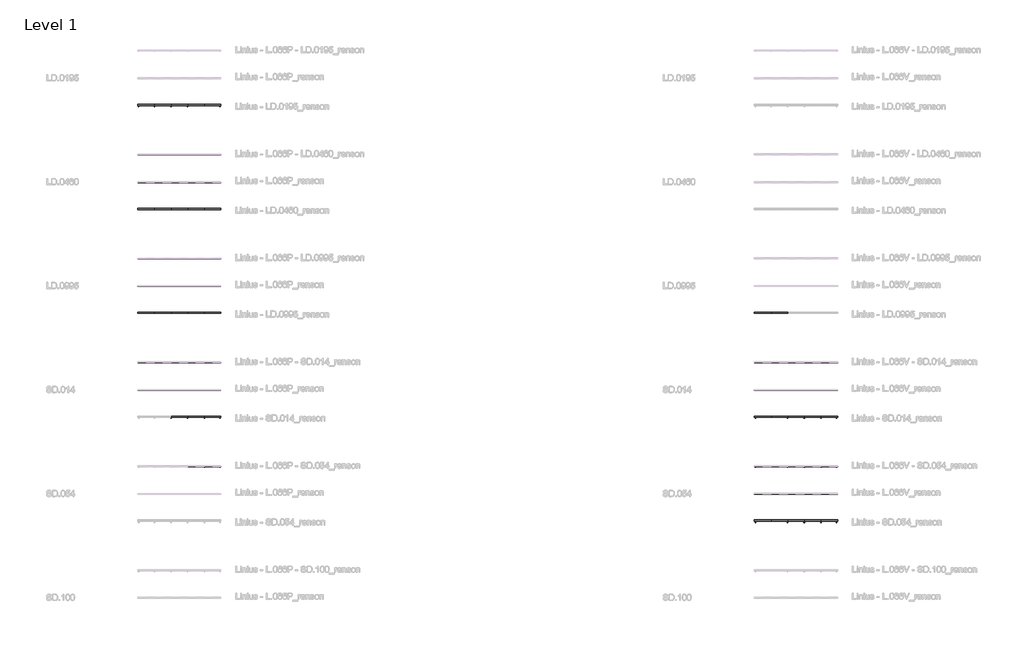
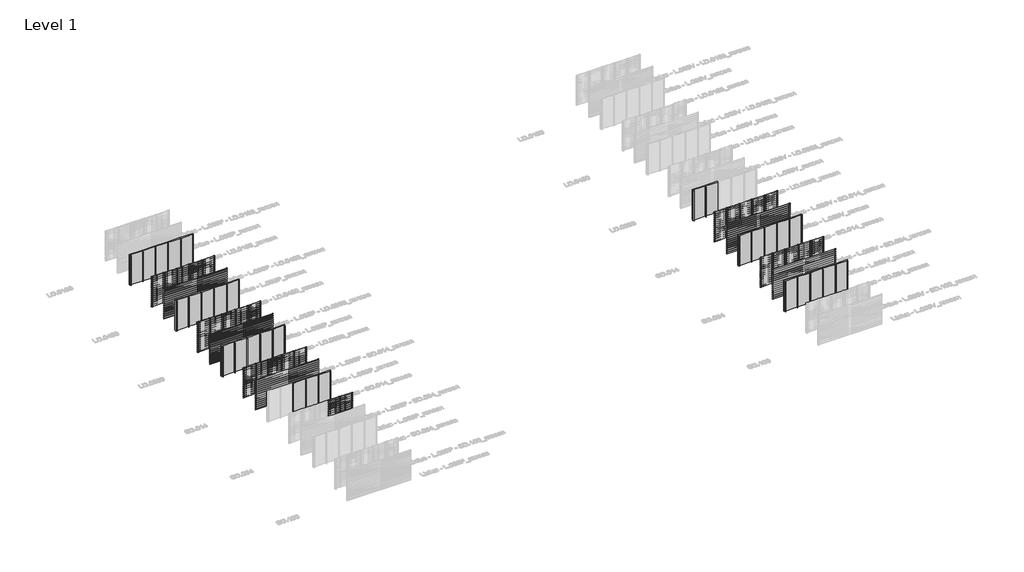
# One storey, part 8 of 540: 67 members, 62 plates.
"""IFC4 building model written with IfcOpenShell, lengths in millimetres."""

from ifc_helpers import new_model, si_unit, origin, origin_with_axes, place, context, project, spatial, polyline, outline, extrude, transform, mapped, element, save
from components import rectangular_mullion_e1f482b2, rectangular_mullion_21e3ddae, rectangular_mullion_fb497acc, rectangular_mullion_3facce28, rectangular_mullion_6cf2c509, rectangular_mullion_146f339b, rectangular_mullion_aa1047c5, rectangular_mullion_c2c7736a, rectangular_mullion_35b0a916, rectangular_mullion_bd250e2e, rectangular_mullion_7b49c8f1, rectangular_mullion_2b84ad7e, rectangular_mullion_0fd695e7, rectangular_mullion_9b796d85, rectangular_mullion_dfb17e98, empty_system_panel_empty_aabbdda4

model = new_model("IFC4")

# Units and contexts
model_context = context("Model", 3, world=origin())
ifc_project = project(units=[si_unit("LENGTHUNIT", "METRE", prefix="MILLI")], contexts=[model_context])

# Site, building, storey
site = spatial("IfcSite", under=ifc_project)
building = spatial("IfcBuilding", under=site)
storey = spatial("IfcBuildingStorey", under=building, Name="Level 1", Elevation=0.0)

# Members
placement = place(None, origin())
rectangular_mullion_shape = rectangular_mullion_e1f482b2(model_context)
element("IfcMember", 1, ObjectType="Rectangular Mullion : LD.0195_renson", at=placement, inside=storey, context=model_context, shape_type="MappedRepresentation", body=[
    mapped(rectangular_mullion_shape, transform((138766.6208095, 62483.0540136, 0.0), x_axis=(-1.0, 0.0, 0.0), y_axis=(0.0, 1.0, 0.0), z_axis=(0.0, 0.0, -1.0))),
])
element("IfcMember", 2, ObjectType="Rectangular Mullion : LD.0195_renson", at=placement, inside=storey, context=model_context, shape_type="MappedRepresentation", body=[
    mapped(rectangular_mullion_shape, transform((137566.6208096, 62483.0540136, 0.0), x_axis=(-1.0, 0.0, 0.0), y_axis=(0.0, 1.0, 0.0), z_axis=(0.0, 0.0, -1.0))),
])
element("IfcMember", 3, ObjectType="Rectangular Mullion : LD.0195_renson", at=placement, inside=storey, context=model_context, shape_type="MappedRepresentation", body=[
    mapped(rectangular_mullion_shape, transform((136366.6208097, 62483.0540136, 0.0), x_axis=(-1.0, 0.0, 0.0), y_axis=(0.0, 1.0, 0.0), z_axis=(0.0, 0.0, -1.0))),
])
element("IfcMember", 4, ObjectType="Rectangular Mullion : LD.0195_renson", at=placement, inside=storey, context=model_context, shape_type="MappedRepresentation", body=[
    mapped(rectangular_mullion_shape, transform((135166.6208099, 62483.0540136, 0.0), x_axis=(-1.0, 0.0, 0.0), y_axis=(0.0, 1.0, 0.0), z_axis=(0.0, 0.0, -1.0))),
])
rectangular_mullion_2_shape = rectangular_mullion_21e3ddae(model_context)
element("IfcMember", 5, ObjectType="Rectangular Mullion : LD.0460_renson", at=placement, inside=storey, context=model_context, shape_type="MappedRepresentation", body=[
    mapped(rectangular_mullion_2_shape, transform((138766.6208095, 58983.0540136, 0.0), x_axis=(-1.0, 0.0, 0.0), y_axis=(0.0, 1.0, 0.0), z_axis=(0.0, 0.0, -1.0))),
])
element("IfcMember", 6, ObjectType="Rectangular Mullion : LD.0460_renson", at=placement, inside=storey, context=model_context, shape_type="MappedRepresentation", body=[
    mapped(rectangular_mullion_2_shape, transform((137566.6208096, 58983.0540136, 0.0), x_axis=(-1.0, 0.0, 0.0), y_axis=(0.0, 1.0, 0.0), z_axis=(0.0, 0.0, -1.0))),
])
element("IfcMember", 7, ObjectType="Rectangular Mullion : LD.0460_renson", at=placement, inside=storey, context=model_context, shape_type="MappedRepresentation", body=[
    mapped(rectangular_mullion_2_shape, transform((136366.6208097, 58983.0540136, 0.0), x_axis=(-1.0, 0.0, 0.0), y_axis=(0.0, 1.0, 0.0), z_axis=(0.0, 0.0, -1.0))),
])
element("IfcMember", 8, ObjectType="Rectangular Mullion : LD.0460_renson", at=placement, inside=storey, context=model_context, shape_type="MappedRepresentation", body=[
    mapped(rectangular_mullion_2_shape, transform((135166.6208099, 58983.0540136, 0.0), x_axis=(-1.0, 0.0, 0.0), y_axis=(0.0, 1.0, 0.0), z_axis=(0.0, 0.0, -1.0))),
])
element("IfcMember", 9, ObjectType="Rectangular Mullion : LD.0460_renson", at=placement, inside=storey, context=model_context, shape_type="MappedRepresentation", body=[
    mapped(rectangular_mullion_2_shape, transform((138766.6208095, 54983.0540136, 0.0), x_axis=(-1.0, 0.0, 0.0), y_axis=(0.0, 1.0, 0.0), z_axis=(0.0, 0.0, -1.0))),
])
element("IfcMember", 10, ObjectType="Rectangular Mullion : LD.0460_renson", at=placement, inside=storey, context=model_context, shape_type="MappedRepresentation", body=[
    mapped(rectangular_mullion_2_shape, transform((137566.6208096, 54983.0540136, 0.0), x_axis=(-1.0, 0.0, 0.0), y_axis=(0.0, 1.0, 0.0), z_axis=(0.0, 0.0, -1.0))),
])
element("IfcMember", 11, ObjectType="Rectangular Mullion : LD.0460_renson", at=placement, inside=storey, context=model_context, shape_type="MappedRepresentation", body=[
    mapped(rectangular_mullion_2_shape, transform((136366.6208097, 54983.0540136, 0.0), x_axis=(-1.0, 0.0, 0.0), y_axis=(0.0, 1.0, 0.0), z_axis=(0.0, 0.0, -1.0))),
])
element("IfcMember", 12, ObjectType="Rectangular Mullion : LD.0460_renson", at=placement, inside=storey, context=model_context, shape_type="MappedRepresentation", body=[
    mapped(rectangular_mullion_2_shape, transform((135166.6208099, 54983.0540136, 0.0), x_axis=(-1.0, 0.0, 0.0), y_axis=(0.0, 1.0, 0.0), z_axis=(0.0, 0.0, -1.0))),
])
rectangular_mullion_3_shape = rectangular_mullion_fb497acc(model_context)
element("IfcMember", 13, ObjectType="Rectangular Mullion : LD.0995_renson", at=placement, inside=storey, context=model_context, shape_type="MappedRepresentation", body=[
    mapped(rectangular_mullion_3_shape, transform((138766.6208095, 51483.0540136, 0.0), x_axis=(-1.0, 0.0, 0.0), y_axis=(0.0, 1.0, 0.0), z_axis=(0.0, 0.0, -1.0))),
])
element("IfcMember", 14, ObjectType="Rectangular Mullion : LD.0995_renson", at=placement, inside=storey, context=model_context, shape_type="MappedRepresentation", body=[
    mapped(rectangular_mullion_3_shape, transform((137566.6208096, 51483.0540136, 0.0), x_axis=(-1.0, 0.0, 0.0), y_axis=(0.0, 1.0, 0.0), z_axis=(0.0, 0.0, -1.0))),
])
element("IfcMember", 15, ObjectType="Rectangular Mullion : LD.0995_renson", at=placement, inside=storey, context=model_context, shape_type="MappedRepresentation", body=[
    mapped(rectangular_mullion_3_shape, transform((136366.6208097, 51483.0540136, 0.0), x_axis=(-1.0, 0.0, 0.0), y_axis=(0.0, 1.0, 0.0), z_axis=(0.0, 0.0, -1.0))),
])
element("IfcMember", 16, ObjectType="Rectangular Mullion : LD.0995_renson", at=placement, inside=storey, context=model_context, shape_type="MappedRepresentation", body=[
    mapped(rectangular_mullion_3_shape, transform((135166.6208099, 51483.0540136, 0.0), x_axis=(-1.0, 0.0, 0.0), y_axis=(0.0, 1.0, 0.0), z_axis=(0.0, 0.0, -1.0))),
])
element("IfcMember", 17, ObjectType="Rectangular Mullion : LD.0995_renson", at=placement, inside=storey, context=model_context, shape_type="MappedRepresentation", body=[
    mapped(rectangular_mullion_3_shape, transform((138766.6208095, 47483.0540136, 0.0), x_axis=(-1.0, 0.0, 0.0), y_axis=(0.0, 1.0, 0.0), z_axis=(0.0, 0.0, -1.0))),
])
element("IfcMember", 18, ObjectType="Rectangular Mullion : LD.0995_renson", at=placement, inside=storey, context=model_context, shape_type="MappedRepresentation", body=[
    mapped(rectangular_mullion_3_shape, transform((137566.6208096, 47483.0540136, 0.0), x_axis=(-1.0, 0.0, 0.0), y_axis=(0.0, 1.0, 0.0), z_axis=(0.0, 0.0, -1.0))),
])
element("IfcMember", 19, ObjectType="Rectangular Mullion : LD.0995_renson", at=placement, inside=storey, context=model_context, shape_type="MappedRepresentation", body=[
    mapped(rectangular_mullion_3_shape, transform((136366.6208097, 47483.0540136, 0.0), x_axis=(-1.0, 0.0, 0.0), y_axis=(0.0, 1.0, 0.0), z_axis=(0.0, 0.0, -1.0))),
])
element("IfcMember", 20, ObjectType="Rectangular Mullion : LD.0995_renson", at=placement, inside=storey, context=model_context, shape_type="MappedRepresentation", body=[
    mapped(rectangular_mullion_3_shape, transform((135166.6208099, 47483.0540136, 0.0), x_axis=(-1.0, 0.0, 0.0), y_axis=(0.0, 1.0, 0.0), z_axis=(0.0, 0.0, -1.0))),
])
element("IfcMember", 21, ObjectType="Rectangular Mullion : LD.0995_renson", at=placement, inside=storey, context=model_context, shape_type="MappedRepresentation", body=[
    mapped(rectangular_mullion_3_shape, transform((179666.6208099, 47483.0540136, 0.0), x_axis=(-1.0, 0.0, 0.0), y_axis=(0.0, 1.0, 0.0), z_axis=(0.0, 0.0, -1.0))),
])
rectangular_mullion_4_shape = rectangular_mullion_3facce28(model_context)
element("IfcMember", 22, ObjectType="Rectangular Mullion : SD.014_renson", at=placement, inside=storey, context=model_context, shape_type="MappedRepresentation", body=[
    mapped(rectangular_mullion_4_shape, transform((138766.6208095, 43983.0540136, 0.0), x_axis=(-1.0, 0.0, 0.0), y_axis=(0.0, 1.0, 0.0), z_axis=(0.0, 0.0, -1.0))),
])
element("IfcMember", 23, ObjectType="Rectangular Mullion : SD.014_renson", at=placement, inside=storey, context=model_context, shape_type="MappedRepresentation", body=[
    mapped(rectangular_mullion_4_shape, transform((137566.6208096, 43983.0540136, 0.0), x_axis=(-1.0, 0.0, 0.0), y_axis=(0.0, 1.0, 0.0), z_axis=(0.0, 0.0, -1.0))),
])
element("IfcMember", 24, ObjectType="Rectangular Mullion : SD.014_renson", at=placement, inside=storey, context=model_context, shape_type="MappedRepresentation", body=[
    mapped(rectangular_mullion_4_shape, transform((136366.6208097, 43983.0540136, 0.0), x_axis=(-1.0, 0.0, 0.0), y_axis=(0.0, 1.0, 0.0), z_axis=(0.0, 0.0, -1.0))),
])
element("IfcMember", 25, ObjectType="Rectangular Mullion : SD.014_renson", at=placement, inside=storey, context=model_context, shape_type="MappedRepresentation", body=[
    mapped(rectangular_mullion_4_shape, transform((135166.6208099, 43983.0540136, 0.0), x_axis=(-1.0, 0.0, 0.0), y_axis=(0.0, 1.0, 0.0), z_axis=(0.0, 0.0, -1.0))),
])
element("IfcMember", 26, ObjectType="Rectangular Mullion : SD.014_renson", at=placement, inside=storey, context=model_context, shape_type="MappedRepresentation", body=[
    mapped(rectangular_mullion_4_shape, transform((138766.6208095, 39983.0540136, 0.0), x_axis=(-1.0, 0.0, 0.0), y_axis=(0.0, 1.0, 0.0), z_axis=(0.0, 0.0, -1.0))),
])
element("IfcMember", 27, ObjectType="Rectangular Mullion : SD.014_renson", at=placement, inside=storey, context=model_context, shape_type="MappedRepresentation", body=[
    mapped(rectangular_mullion_4_shape, transform((137566.6208096, 39983.0540136, 0.0), x_axis=(-1.0, 0.0, 0.0), y_axis=(0.0, 1.0, 0.0), z_axis=(0.0, 0.0, -1.0))),
])
element("IfcMember", 28, ObjectType="Rectangular Mullion : SD.014_renson", at=placement, inside=storey, context=model_context, shape_type="MappedRepresentation", body=[
    mapped(rectangular_mullion_4_shape, transform((136366.6208097, 39983.0540136, 0.0), x_axis=(-1.0, 0.0, 0.0), y_axis=(0.0, 1.0, 0.0), z_axis=(0.0, 0.0, -1.0))),
])
element("IfcMember", 29, ObjectType="Rectangular Mullion : SD.014_renson", at=placement, inside=storey, context=model_context, shape_type="MappedRepresentation", body=[
    mapped(rectangular_mullion_4_shape, transform((182066.6208096, 43983.0540136, 0.0), x_axis=(-1.0, 0.0, 0.0), y_axis=(0.0, 1.0, 0.0), z_axis=(0.0, 0.0, -1.0))),
])
element("IfcMember", 30, ObjectType="Rectangular Mullion : SD.014_renson", at=placement, inside=storey, context=model_context, shape_type="MappedRepresentation", body=[
    mapped(rectangular_mullion_4_shape, transform((180866.6208097, 43983.0540136, 0.0), x_axis=(-1.0, 0.0, 0.0), y_axis=(0.0, 1.0, 0.0), z_axis=(0.0, 0.0, -1.0))),
])
element("IfcMember", 31, ObjectType="Rectangular Mullion : SD.014_renson", at=placement, inside=storey, context=model_context, shape_type="MappedRepresentation", body=[
    mapped(rectangular_mullion_4_shape, transform((179666.6208099, 43983.0540136, 0.0), x_axis=(-1.0, 0.0, 0.0), y_axis=(0.0, 1.0, 0.0), z_axis=(0.0, 0.0, -1.0))),
])
element("IfcMember", 32, ObjectType="Rectangular Mullion : SD.014_renson", at=placement, inside=storey, context=model_context, shape_type="MappedRepresentation", body=[
    mapped(rectangular_mullion_4_shape, transform((183266.6208095, 39983.0540136, 0.0), x_axis=(-1.0, 0.0, 0.0), y_axis=(0.0, 1.0, 0.0), z_axis=(0.0, 0.0, -1.0))),
])
element("IfcMember", 33, ObjectType="Rectangular Mullion : SD.014_renson", at=placement, inside=storey, context=model_context, shape_type="MappedRepresentation", body=[
    mapped(rectangular_mullion_4_shape, transform((182066.6208096, 39983.0540136, 0.0), x_axis=(-1.0, 0.0, 0.0), y_axis=(0.0, 1.0, 0.0), z_axis=(0.0, 0.0, -1.0))),
])
element("IfcMember", 34, ObjectType="Rectangular Mullion : SD.014_renson", at=placement, inside=storey, context=model_context, shape_type="MappedRepresentation", body=[
    mapped(rectangular_mullion_4_shape, transform((180866.6208097, 39983.0540136, 0.0), x_axis=(-1.0, 0.0, 0.0), y_axis=(0.0, 1.0, 0.0), z_axis=(0.0, 0.0, -1.0))),
])
element("IfcMember", 35, ObjectType="Rectangular Mullion : SD.014_renson", at=placement, inside=storey, context=model_context, shape_type="MappedRepresentation", body=[
    mapped(rectangular_mullion_4_shape, transform((179666.6208099, 39983.0540136, 0.0), x_axis=(-1.0, 0.0, 0.0), y_axis=(0.0, 1.0, 0.0), z_axis=(0.0, 0.0, -1.0))),
])
element("IfcMember", 36, ObjectType="Rectangular Mullion : SD.014_renson", at=placement, inside=storey, context=model_context, shape_type="MappedRepresentation", body=[
    mapped(rectangular_mullion_4_shape, transform((183266.6208095, 43983.0540136, 0.0), x_axis=(-1.0, 0.0, 0.0), y_axis=(0.0, 1.0, 0.0), z_axis=(0.0, 0.0, -1.0))),
])
rectangular_mullion_5_shape = rectangular_mullion_6cf2c509(model_context)
element("IfcMember", 37, ObjectType="Rectangular Mullion : SD.054_renson", at=placement, inside=storey, context=model_context, shape_type="MappedRepresentation", body=[
    mapped(rectangular_mullion_5_shape, transform((138766.6208095, 36483.0540136, 0.0), x_axis=(-1.0, 0.0, 0.0), y_axis=(0.0, 1.0, 0.0), z_axis=(0.0, 0.0, -1.0))),
])
element("IfcMember", 38, ObjectType="Rectangular Mullion : SD.054_renson", at=placement, inside=storey, context=model_context, shape_type="MappedRepresentation", body=[
    mapped(rectangular_mullion_5_shape, transform((182066.6208096, 36483.0540136, 0.0), x_axis=(-1.0, 0.0, 0.0), y_axis=(0.0, 1.0, 0.0), z_axis=(0.0, 0.0, -1.0))),
])
element("IfcMember", 39, ObjectType="Rectangular Mullion : SD.054_renson", at=placement, inside=storey, context=model_context, shape_type="MappedRepresentation", body=[
    mapped(rectangular_mullion_5_shape, transform((180866.6208097, 36483.0540136, 0.0), x_axis=(-1.0, 0.0, 0.0), y_axis=(0.0, 1.0, 0.0), z_axis=(0.0, 0.0, -1.0))),
])
element("IfcMember", 40, ObjectType="Rectangular Mullion : SD.054_renson", at=placement, inside=storey, context=model_context, shape_type="MappedRepresentation", body=[
    mapped(rectangular_mullion_5_shape, transform((179666.6208099, 36483.0540136, 0.0), x_axis=(-1.0, 0.0, 0.0), y_axis=(0.0, 1.0, 0.0), z_axis=(0.0, 0.0, -1.0))),
])
element("IfcMember", 41, ObjectType="Rectangular Mullion : SD.054_renson", at=placement, inside=storey, context=model_context, shape_type="MappedRepresentation", body=[
    mapped(rectangular_mullion_5_shape, transform((183266.6208095, 32483.0540136, 0.0), x_axis=(-1.0, 0.0, 0.0), y_axis=(0.0, 1.0, 0.0), z_axis=(0.0, 0.0, -1.0))),
])
element("IfcMember", 42, ObjectType="Rectangular Mullion : SD.054_renson", at=placement, inside=storey, context=model_context, shape_type="MappedRepresentation", body=[
    mapped(rectangular_mullion_5_shape, transform((182066.6208096, 32483.0540136, 0.0), x_axis=(-1.0, 0.0, 0.0), y_axis=(0.0, 1.0, 0.0), z_axis=(0.0, 0.0, -1.0))),
])
element("IfcMember", 43, ObjectType="Rectangular Mullion : SD.054_renson", at=placement, inside=storey, context=model_context, shape_type="MappedRepresentation", body=[
    mapped(rectangular_mullion_5_shape, transform((180866.6208097, 32483.0540136, 0.0), x_axis=(-1.0, 0.0, 0.0), y_axis=(0.0, 1.0, 0.0), z_axis=(0.0, 0.0, -1.0))),
])
element("IfcMember", 44, ObjectType="Rectangular Mullion : SD.054_renson", at=placement, inside=storey, context=model_context, shape_type="MappedRepresentation", body=[
    mapped(rectangular_mullion_5_shape, transform((179666.6208099, 32483.0540136, 0.0), x_axis=(-1.0, 0.0, 0.0), y_axis=(0.0, 1.0, 0.0), z_axis=(0.0, 0.0, -1.0))),
])
element("IfcMember", 45, ObjectType="Rectangular Mullion : SD.054_renson", at=placement, inside=storey, context=model_context, shape_type="MappedRepresentation", body=[
    mapped(rectangular_mullion_5_shape, transform((183266.6208095, 36483.0540136, 0.0), x_axis=(-1.0, 0.0, 0.0), y_axis=(0.0, 1.0, 0.0), z_axis=(0.0, 0.0, -1.0))),
])
rectangular_mullion_6_shape = rectangular_mullion_146f339b(model_context)
element("IfcMember", 46, ObjectType="Rectangular Mullion : LD.0195 - left_renson", at=placement, inside=storey, context=model_context, shape_type="MappedRepresentation", body=[
    mapped(rectangular_mullion_6_shape, transform((133966.6208097, 62483.0540136, 0.0), x_axis=(-1.0, 0.0, 0.0), y_axis=(0.0, 1.0, 0.0), z_axis=(0.0, 0.0, -1.0))),
])
rectangular_mullion_7_shape = rectangular_mullion_aa1047c5(model_context)
element("IfcMember", 47, ObjectType="Rectangular Mullion : LD.0195 - right_renson", at=placement, inside=storey, context=model_context, shape_type="MappedRepresentation", body=[
    mapped(rectangular_mullion_7_shape, transform((139966.6208097, 62483.0540136, 3000.0), x_axis=(1.0, 0.0, 0.0), y_axis=(0.0, 1.0, 0.0), z_axis=(0.0, 0.0, 1.0))),
])
rectangular_mullion_8_shape = rectangular_mullion_c2c7736a(model_context)
element("IfcMember", 48, ObjectType="Rectangular Mullion : LD.0460 - left_renson", at=placement, inside=storey, context=model_context, shape_type="MappedRepresentation", body=[
    mapped(rectangular_mullion_8_shape, transform((133966.6208097, 58983.0540136, 0.0), x_axis=(-1.0, 0.0, 0.0), y_axis=(0.0, 1.0, 0.0), z_axis=(0.0, 0.0, -1.0))),
])
element("IfcMember", 49, ObjectType="Rectangular Mullion : LD.0460 - left_renson", at=placement, inside=storey, context=model_context, shape_type="MappedRepresentation", body=[
    mapped(rectangular_mullion_8_shape, transform((133966.6208097, 54983.0540136, 0.0), x_axis=(-1.0, 0.0, 0.0), y_axis=(0.0, 1.0, 0.0), z_axis=(0.0, 0.0, -1.0))),
])
rectangular_mullion_9_shape = rectangular_mullion_35b0a916(model_context)
element("IfcMember", 50, ObjectType="Rectangular Mullion : LD.0460 - right_renson", at=placement, inside=storey, context=model_context, shape_type="MappedRepresentation", body=[
    mapped(rectangular_mullion_9_shape, transform((139966.6208097, 58983.0540136, 3000.0), x_axis=(1.0, 0.0, 0.0), y_axis=(0.0, 1.0, 0.0), z_axis=(0.0, 0.0, 1.0))),
])
element("IfcMember", 51, ObjectType="Rectangular Mullion : LD.0460 - right_renson", at=placement, inside=storey, context=model_context, shape_type="MappedRepresentation", body=[
    mapped(rectangular_mullion_9_shape, transform((139966.6208097, 54983.0540136, 3000.0), x_axis=(1.0, 0.0, 0.0), y_axis=(0.0, 1.0, 0.0), z_axis=(0.0, 0.0, 1.0))),
])
rectangular_mullion_10_shape = rectangular_mullion_bd250e2e(model_context)
element("IfcMember", 52, ObjectType="Rectangular Mullion : LD.0995 - left_renson", at=placement, inside=storey, context=model_context, shape_type="MappedRepresentation", body=[
    mapped(rectangular_mullion_10_shape, transform((133966.6208097, 51483.0540136, 0.0), x_axis=(-1.0, 0.0, 0.0), y_axis=(0.0, 1.0, 0.0), z_axis=(0.0, 0.0, -1.0))),
])
element("IfcMember", 53, ObjectType="Rectangular Mullion : LD.0995 - left_renson", at=placement, inside=storey, context=model_context, shape_type="MappedRepresentation", body=[
    mapped(rectangular_mullion_10_shape, transform((133966.6208097, 47483.0540136, 0.0), x_axis=(-1.0, 0.0, 0.0), y_axis=(0.0, 1.0, 0.0), z_axis=(0.0, 0.0, -1.0))),
])
element("IfcMember", 54, ObjectType="Rectangular Mullion : LD.0995 - left_renson", at=placement, inside=storey, context=model_context, shape_type="MappedRepresentation", body=[
    mapped(rectangular_mullion_10_shape, transform((178466.6208097, 47483.0540136, 0.0), x_axis=(-1.0, 0.0, 0.0), y_axis=(0.0, 1.0, 0.0), z_axis=(0.0, 0.0, -1.0))),
])
rectangular_mullion_11_shape = rectangular_mullion_7b49c8f1(model_context)
element("IfcMember", 55, ObjectType="Rectangular Mullion : LD.0995 - right_renson", at=placement, inside=storey, context=model_context, shape_type="MappedRepresentation", body=[
    mapped(rectangular_mullion_11_shape, transform((139966.6208097, 51483.0540136, 3000.0), x_axis=(1.0, 0.0, 0.0), y_axis=(0.0, 1.0, 0.0), z_axis=(0.0, 0.0, 1.0))),
])
element("IfcMember", 56, ObjectType="Rectangular Mullion : LD.0995 - right_renson", at=placement, inside=storey, context=model_context, shape_type="MappedRepresentation", body=[
    mapped(rectangular_mullion_11_shape, transform((139966.6208097, 47483.0540136, 3000.0), x_axis=(1.0, 0.0, 0.0), y_axis=(0.0, 1.0, 0.0), z_axis=(0.0, 0.0, 1.0))),
])
rectangular_mullion_12_shape = rectangular_mullion_2b84ad7e(model_context)
element("IfcMember", 57, ObjectType="Rectangular Mullion : SD.014 - left_renson", at=placement, inside=storey, context=model_context, shape_type="MappedRepresentation", body=[
    mapped(rectangular_mullion_12_shape, transform((133966.6208097, 43983.0540136, 0.0), x_axis=(-1.0, 0.0, 0.0), y_axis=(0.0, 1.0, 0.0), z_axis=(0.0, 0.0, -1.0))),
])
element("IfcMember", 58, ObjectType="Rectangular Mullion : SD.014 - left_renson", at=placement, inside=storey, context=model_context, shape_type="MappedRepresentation", body=[
    mapped(rectangular_mullion_12_shape, transform((178466.6208097, 43983.0540136, 0.0), x_axis=(-1.0, 0.0, 0.0), y_axis=(0.0, 1.0, 0.0), z_axis=(0.0, 0.0, -1.0))),
])
element("IfcMember", 59, ObjectType="Rectangular Mullion : SD.014 - left_renson", at=placement, inside=storey, context=model_context, shape_type="MappedRepresentation", body=[
    mapped(rectangular_mullion_12_shape, transform((178466.6208097, 39983.0540136, 0.0), x_axis=(-1.0, 0.0, 0.0), y_axis=(0.0, 1.0, 0.0), z_axis=(0.0, 0.0, -1.0))),
])
rectangular_mullion_13_shape = rectangular_mullion_0fd695e7(model_context)
element("IfcMember", 60, ObjectType="Rectangular Mullion : SD.014 - right_renson", at=placement, inside=storey, context=model_context, shape_type="MappedRepresentation", body=[
    mapped(rectangular_mullion_13_shape, transform((139966.6208097, 43983.0540136, 3000.0), x_axis=(1.0, 0.0, 0.0), y_axis=(0.0, 1.0, 0.0), z_axis=(0.0, 0.0, 1.0))),
])
element("IfcMember", 61, ObjectType="Rectangular Mullion : SD.014 - right_renson", at=placement, inside=storey, context=model_context, shape_type="MappedRepresentation", body=[
    mapped(rectangular_mullion_13_shape, transform((139966.6208097, 39983.0540136, 3000.0), x_axis=(1.0, 0.0, 0.0), y_axis=(0.0, 1.0, 0.0), z_axis=(0.0, 0.0, 1.0))),
])
element("IfcMember", 62, ObjectType="Rectangular Mullion : SD.014 - right_renson", at=placement, inside=storey, context=model_context, shape_type="MappedRepresentation", body=[
    mapped(rectangular_mullion_13_shape, transform((184466.6208097, 39983.0540136, 3000.0), x_axis=(1.0, 0.0, 0.0), y_axis=(0.0, 1.0, 0.0), z_axis=(0.0, 0.0, 1.0))),
])
rectangular_mullion_14_shape = rectangular_mullion_9b796d85(model_context)
element("IfcMember", 63, ObjectType="Rectangular Mullion : SD.054 - left_renson", at=placement, inside=storey, context=model_context, shape_type="MappedRepresentation", body=[
    mapped(rectangular_mullion_14_shape, transform((178466.6208097, 36483.0540136, 0.0), x_axis=(-1.0, 0.0, 0.0), y_axis=(0.0, 1.0, 0.0), z_axis=(0.0, 0.0, -1.0))),
])
element("IfcMember", 64, ObjectType="Rectangular Mullion : SD.054 - left_renson", at=placement, inside=storey, context=model_context, shape_type="MappedRepresentation", body=[
    mapped(rectangular_mullion_14_shape, transform((178466.6208097, 32483.0540136, 0.0), x_axis=(-1.0, 0.0, 0.0), y_axis=(0.0, 1.0, 0.0), z_axis=(0.0, 0.0, -1.0))),
])
rectangular_mullion_15_shape = rectangular_mullion_dfb17e98(model_context)
element("IfcMember", 65, ObjectType="Rectangular Mullion : SD.054 - right_renson", at=placement, inside=storey, context=model_context, shape_type="MappedRepresentation", body=[
    mapped(rectangular_mullion_15_shape, transform((139966.6208097, 36483.0540136, 3000.0), x_axis=(1.0, 0.0, 0.0), y_axis=(0.0, 1.0, 0.0), z_axis=(0.0, 0.0, 1.0))),
])
element("IfcMember", 66, ObjectType="Rectangular Mullion : SD.054 - right_renson", at=placement, inside=storey, context=model_context, shape_type="MappedRepresentation", body=[
    mapped(rectangular_mullion_15_shape, transform((184466.6208097, 36483.0540136, 3000.0), x_axis=(1.0, 0.0, 0.0), y_axis=(0.0, 1.0, 0.0), z_axis=(0.0, 0.0, 1.0))),
])
element("IfcMember", 67, ObjectType="Rectangular Mullion : SD.054 - right_renson", at=placement, inside=storey, context=model_context, shape_type="MappedRepresentation", body=[
    mapped(rectangular_mullion_15_shape, transform((184466.6208097, 32483.0540136, 3000.0), x_axis=(1.0, 0.0, 0.0), y_axis=(0.0, 1.0, 0.0), z_axis=(0.0, 0.0, 1.0))),
])

# Plates
element("IfcPlate", 68, ObjectType="Linius - L.066P_renson", at=placement, inside=storey, context=model_context, shape_type="SweptSolid", body=[
    extrude(outline(polyline([(133966.6208097, 58984.0540136), (135166.6208099, 58984.0540136), (135166.6208099, 58982.0540136), (133966.6208097, 58982.0540136), (133966.6208097, 58984.0540136)])), origin_with_axes(), (0.0, 0.0, 1.0), 3000.0),
])
element("IfcPlate", 69, ObjectType="Linius - L.066P_renson", at=placement, inside=storey, context=model_context, shape_type="SweptSolid", body=[
    extrude(outline(polyline([(135166.6208099, 58984.0540136), (136366.6208097, 58984.0540136), (136366.6208097, 58982.0540136), (135166.6208099, 58982.0540136), (135166.6208099, 58984.0540136)])), origin_with_axes(), (0.0, 0.0, 1.0), 3000.0),
])
element("IfcPlate", 70, ObjectType="Linius - L.066P_renson", at=placement, inside=storey, context=model_context, shape_type="SweptSolid", body=[
    extrude(outline(polyline([(136366.6208097, 58984.0540136), (137566.6208096, 58984.0540136), (137566.6208096, 58982.0540136), (136366.6208097, 58982.0540136), (136366.6208097, 58984.0540136)])), origin_with_axes(), (0.0, 0.0, 1.0), 3000.0),
])
element("IfcPlate", 71, ObjectType="Linius - L.066P_renson", at=placement, inside=storey, context=model_context, shape_type="SweptSolid", body=[
    extrude(outline(polyline([(137566.6208096, 58984.0540136), (138766.6208095, 58984.0540136), (138766.6208095, 58982.0540136), (137566.6208096, 58982.0540136), (137566.6208096, 58984.0540136)])), origin_with_axes(), (0.0, 0.0, 1.0), 3000.0),
])
element("IfcPlate", 72, ObjectType="Linius - L.066P_renson", at=placement, inside=storey, context=model_context, shape_type="SweptSolid", body=[
    extrude(outline(polyline([(133966.6208097, 56984.0540136), (139966.6208097, 56984.0540136), (139966.6208097, 56982.0540136), (133966.6208097, 56982.0540136), (133966.6208097, 56984.0540136)])), origin_with_axes(), (0.0, 0.0, 1.0), 3000.0),
])
element("IfcPlate", 73, ObjectType="Linius - L.066P_renson", at=placement, inside=storey, context=model_context, shape_type="SweptSolid", body=[
    extrude(outline(polyline([(133966.6208097, 51484.0540136), (135166.6208099, 51484.0540136), (135166.6208099, 51482.0540136), (133966.6208097, 51482.0540136), (133966.6208097, 51484.0540136)])), origin_with_axes(), (0.0, 0.0, 1.0), 3000.0),
])
element("IfcPlate", 74, ObjectType="Linius - L.066P_renson", at=placement, inside=storey, context=model_context, shape_type="SweptSolid", body=[
    extrude(outline(polyline([(135166.6208099, 51484.0540136), (136366.6208097, 51484.0540136), (136366.6208097, 51482.0540136), (135166.6208099, 51482.0540136), (135166.6208099, 51484.0540136)])), origin_with_axes(), (0.0, 0.0, 1.0), 3000.0),
])
element("IfcPlate", 75, ObjectType="Linius - L.066P_renson", at=placement, inside=storey, context=model_context, shape_type="SweptSolid", body=[
    extrude(outline(polyline([(136366.6208097, 51484.0540136), (137566.6208096, 51484.0540136), (137566.6208096, 51482.0540136), (136366.6208097, 51482.0540136), (136366.6208097, 51484.0540136)])), origin_with_axes(), (0.0, 0.0, 1.0), 3000.0),
])
element("IfcPlate", 76, ObjectType="Linius - L.066P_renson", at=placement, inside=storey, context=model_context, shape_type="SweptSolid", body=[
    extrude(outline(polyline([(137566.6208096, 51484.0540136), (138766.6208095, 51484.0540136), (138766.6208095, 51482.0540136), (137566.6208096, 51482.0540136), (137566.6208096, 51484.0540136)])), origin_with_axes(), (0.0, 0.0, 1.0), 3000.0),
])
element("IfcPlate", 77, ObjectType="Linius - L.066P_renson", at=placement, inside=storey, context=model_context, shape_type="SweptSolid", body=[
    extrude(outline(polyline([(133966.6208097, 49484.0540136), (139966.6208097, 49484.0540136), (139966.6208097, 49482.0540136), (133966.6208097, 49482.0540136), (133966.6208097, 49484.0540136)])), origin_with_axes(), (0.0, 0.0, 1.0), 3000.0),
])
element("IfcPlate", 78, ObjectType="Linius - L.066P_renson", at=placement, inside=storey, context=model_context, shape_type="SweptSolid", body=[
    extrude(outline(polyline([(133966.6208097, 43984.0540136), (135166.6208099, 43984.0540136), (135166.6208099, 43982.0540136), (133966.6208097, 43982.0540136), (133966.6208097, 43984.0540136)])), origin_with_axes(), (0.0, 0.0, 1.0), 3000.0),
])
element("IfcPlate", 79, ObjectType="Linius - L.066P_renson", at=placement, inside=storey, context=model_context, shape_type="SweptSolid", body=[
    extrude(outline(polyline([(135166.6208099, 43984.0540136), (136366.6208097, 43984.0540136), (136366.6208097, 43982.0540136), (135166.6208099, 43982.0540136), (135166.6208099, 43984.0540136)])), origin_with_axes(), (0.0, 0.0, 1.0), 3000.0),
])
element("IfcPlate", 80, ObjectType="Linius - L.066P_renson", at=placement, inside=storey, context=model_context, shape_type="SweptSolid", body=[
    extrude(outline(polyline([(136366.6208097, 43984.0540136), (137566.6208096, 43984.0540136), (137566.6208096, 43982.0540136), (136366.6208097, 43982.0540136), (136366.6208097, 43984.0540136)])), origin_with_axes(), (0.0, 0.0, 1.0), 3000.0),
])
element("IfcPlate", 81, ObjectType="Linius - L.066P_renson", at=placement, inside=storey, context=model_context, shape_type="SweptSolid", body=[
    extrude(outline(polyline([(137566.6208096, 43984.0540136), (138766.6208095, 43984.0540136), (138766.6208095, 43982.0540136), (137566.6208096, 43982.0540136), (137566.6208096, 43984.0540136)])), origin_with_axes(), (0.0, 0.0, 1.0), 3000.0),
])
element("IfcPlate", 82, ObjectType="Linius - L.066P_renson", at=placement, inside=storey, context=model_context, shape_type="SweptSolid", body=[
    extrude(outline(polyline([(133966.6208097, 41984.0540136), (139966.6208097, 41984.0540136), (139966.6208097, 41982.0540136), (133966.6208097, 41982.0540136), (133966.6208097, 41984.0540136)])), origin_with_axes(), (0.0, 0.0, 1.0), 3000.0),
])
element("IfcPlate", 83, ObjectType="Linius - L.066P_renson", at=placement, inside=storey, context=model_context, shape_type="SweptSolid", body=[
    extrude(outline(polyline([(137566.6208096, 36484.0540136), (138766.6208095, 36484.0540136), (138766.6208095, 36482.0540136), (137566.6208096, 36482.0540136), (137566.6208096, 36484.0540136)])), origin_with_axes(), (0.0, 0.0, 1.0), 3000.0),
])
element("IfcPlate", 84, ObjectType="Linius - L.066P_renson", at=placement, inside=storey, context=model_context, shape_type="SweptSolid", body=[
    extrude(outline(polyline([(138766.6208095, 58984.0540136), (139966.6208097, 58984.0540136), (139966.6208097, 58982.0540136), (138766.6208095, 58982.0540136), (138766.6208095, 58984.0540136)])), origin_with_axes(), (0.0, 0.0, 1.0), 3000.0),
])
element("IfcPlate", 85, ObjectType="Linius - L.066P_renson", at=placement, inside=storey, context=model_context, shape_type="SweptSolid", body=[
    extrude(outline(polyline([(138766.6208095, 51484.0540136), (139966.6208097, 51484.0540136), (139966.6208097, 51482.0540136), (138766.6208095, 51482.0540136), (138766.6208095, 51484.0540136)])), origin_with_axes(), (0.0, 0.0, 1.0), 3000.0),
])
element("IfcPlate", 86, ObjectType="Linius - L.066P_renson", at=placement, inside=storey, context=model_context, shape_type="SweptSolid", body=[
    extrude(outline(polyline([(138766.6208095, 43984.0540136), (139966.6208097, 43984.0540136), (139966.6208097, 43982.0540136), (138766.6208095, 43982.0540136), (138766.6208095, 43984.0540136)])), origin_with_axes(), (0.0, 0.0, 1.0), 3000.0),
])
element("IfcPlate", 87, ObjectType="Linius - L.066P_renson", at=placement, inside=storey, context=model_context, shape_type="SweptSolid", body=[
    extrude(outline(polyline([(138766.6208095, 36484.0540136), (139966.6208097, 36484.0540136), (139966.6208097, 36482.0540136), (138766.6208095, 36482.0540136), (138766.6208095, 36484.0540136)])), origin_with_axes(), (0.0, 0.0, 1.0), 3000.0),
])
element("IfcPlate", 88, ObjectType="Linius - L.066V_renson", at=placement, inside=storey, context=model_context, shape_type="SweptSolid", body=[
    extrude(outline(polyline([(178466.6208097, 43984.0540136), (179666.6208099, 43984.0540136), (179666.6208099, 43982.0540136), (178466.6208097, 43982.0540136), (178466.6208097, 43984.0540136)])), origin_with_axes(), (0.0, 0.0, 1.0), 3000.0),
])
element("IfcPlate", 89, ObjectType="Linius - L.066V_renson", at=placement, inside=storey, context=model_context, shape_type="SweptSolid", body=[
    extrude(outline(polyline([(179666.6208099, 43984.0540136), (180866.6208097, 43984.0540136), (180866.6208097, 43982.0540136), (179666.6208099, 43982.0540136), (179666.6208099, 43984.0540136)])), origin_with_axes(), (0.0, 0.0, 1.0), 3000.0),
])
element("IfcPlate", 90, ObjectType="Linius - L.066V_renson", at=placement, inside=storey, context=model_context, shape_type="SweptSolid", body=[
    extrude(outline(polyline([(180866.6208097, 43984.0540136), (182066.6208096, 43984.0540136), (182066.6208096, 43982.0540136), (180866.6208097, 43982.0540136), (180866.6208097, 43984.0540136)])), origin_with_axes(), (0.0, 0.0, 1.0), 3000.0),
])
element("IfcPlate", 91, ObjectType="Linius - L.066V_renson", at=placement, inside=storey, context=model_context, shape_type="SweptSolid", body=[
    extrude(outline(polyline([(183266.6208095, 43984.0540136), (184466.6208097, 43984.0540136), (184466.6208097, 43982.0540136), (183266.6208095, 43982.0540136), (183266.6208095, 43984.0540136)])), origin_with_axes(), (0.0, 0.0, 1.0), 3000.0),
])
element("IfcPlate", 92, ObjectType="Linius - L.066V_renson", at=placement, inside=storey, context=model_context, shape_type="SweptSolid", body=[
    extrude(outline(polyline([(178466.6208097, 41984.0540136), (184466.6208097, 41984.0540136), (184466.6208097, 41982.0540136), (178466.6208097, 41982.0540136), (178466.6208097, 41984.0540136)])), origin_with_axes(), (0.0, 0.0, 1.0), 3000.0),
])
element("IfcPlate", 93, ObjectType="Linius - L.066V_renson", at=placement, inside=storey, context=model_context, shape_type="SweptSolid", body=[
    extrude(outline(polyline([(178466.6208097, 36484.0540136), (179666.6208099, 36484.0540136), (179666.6208099, 36482.0540136), (178466.6208097, 36482.0540136), (178466.6208097, 36484.0540136)])), origin_with_axes(), (0.0, 0.0, 1.0), 3000.0),
])
element("IfcPlate", 94, ObjectType="Linius - L.066V_renson", at=placement, inside=storey, context=model_context, shape_type="SweptSolid", body=[
    extrude(outline(polyline([(179666.6208099, 36484.0540136), (180866.6208097, 36484.0540136), (180866.6208097, 36482.0540136), (179666.6208099, 36482.0540136), (179666.6208099, 36484.0540136)])), origin_with_axes(), (0.0, 0.0, 1.0), 3000.0),
])
element("IfcPlate", 95, ObjectType="Linius - L.066V_renson", at=placement, inside=storey, context=model_context, shape_type="SweptSolid", body=[
    extrude(outline(polyline([(180866.6208097, 36484.0540136), (182066.6208096, 36484.0540136), (182066.6208096, 36482.0540136), (180866.6208097, 36482.0540136), (180866.6208097, 36484.0540136)])), origin_with_axes(), (0.0, 0.0, 1.0), 3000.0),
])
element("IfcPlate", 96, ObjectType="Linius - L.066V_renson", at=placement, inside=storey, context=model_context, shape_type="SweptSolid", body=[
    extrude(outline(polyline([(183266.6208095, 36484.0540136), (184466.6208097, 36484.0540136), (184466.6208097, 36482.0540136), (183266.6208095, 36482.0540136), (183266.6208095, 36484.0540136)])), origin_with_axes(), (0.0, 0.0, 1.0), 3000.0),
])
element("IfcPlate", 97, ObjectType="Linius - L.066V_renson", at=placement, inside=storey, context=model_context, shape_type="SweptSolid", body=[
    extrude(outline(polyline([(178466.6208097, 34484.0540136), (184466.6208097, 34484.0540136), (184466.6208097, 34482.0540136), (178466.6208097, 34482.0540136), (178466.6208097, 34484.0540136)])), origin_with_axes(), (0.0, 0.0, 1.0), 3000.0),
])
element("IfcPlate", 98, ObjectType="Linius - L.066V_renson", at=placement, inside=storey, context=model_context, shape_type="SweptSolid", body=[
    extrude(outline(polyline([(182066.6208096, 43984.0540136), (183266.6208095, 43984.0540136), (183266.6208095, 43982.0540136), (182066.6208096, 43982.0540136), (182066.6208096, 43984.0540136)])), origin_with_axes(), (0.0, 0.0, 1.0), 3000.0),
])
element("IfcPlate", 99, ObjectType="Linius - L.066V_renson", at=placement, inside=storey, context=model_context, shape_type="SweptSolid", body=[
    extrude(outline(polyline([(182066.6208096, 36484.0540136), (183266.6208095, 36484.0540136), (183266.6208095, 36482.0540136), (182066.6208096, 36482.0540136), (182066.6208096, 36484.0540136)])), origin_with_axes(), (0.0, 0.0, 1.0), 3000.0),
])
empty_system_panel_empty_shape = empty_system_panel_empty_aabbdda4(model_context)
element("IfcPlate", 100, ObjectType="Empty System Panel : Empty", at=placement, inside=storey, context=model_context, shape_type="MappedRepresentation", body=[
    mapped(empty_system_panel_empty_shape, transform((139366.6208096, 62483.0540136, 0.0), x_axis=(-1.0, 0.0, 0.0), y_axis=(0.0, -1.0, 0.0), z_axis=(0.0, 0.0, 1.0))),
])
element("IfcPlate", 101, ObjectType="Empty System Panel : Empty", at=placement, inside=storey, context=model_context, shape_type="MappedRepresentation", body=[
    mapped(empty_system_panel_empty_shape, transform((139366.6208096, 54983.0540136, 0.0), x_axis=(-1.0, 0.0, 0.0), y_axis=(0.0, -1.0, 0.0), z_axis=(0.0, 0.0, 1.0))),
])
element("IfcPlate", 102, ObjectType="Empty System Panel : Empty", at=placement, inside=storey, context=model_context, shape_type="MappedRepresentation", body=[
    mapped(empty_system_panel_empty_shape, transform((139366.6208096, 47483.0540136, 0.0), x_axis=(-1.0, 0.0, 0.0), y_axis=(0.0, -1.0, 0.0), z_axis=(0.0, 0.0, 1.0))),
])
element("IfcPlate", 103, ObjectType="Empty System Panel : Empty", at=placement, inside=storey, context=model_context, shape_type="MappedRepresentation", body=[
    mapped(empty_system_panel_empty_shape, transform((139366.6208096, 39983.0540136, 0.0), x_axis=(-1.0, 0.0, 0.0), y_axis=(0.0, -1.0, 0.0), z_axis=(0.0, 0.0, 1.0))),
])
element("IfcPlate", 104, ObjectType="Empty System Panel : Empty", at=placement, inside=storey, context=model_context, shape_type="MappedRepresentation", body=[
    mapped(empty_system_panel_empty_shape, transform((138166.6208096, 62483.0540136, 0.0), x_axis=(-1.0, 0.0, 0.0), y_axis=(0.0, -1.0, 0.0), z_axis=(0.0, 0.0, 1.0))),
])
element("IfcPlate", 105, ObjectType="Empty System Panel : Empty", at=placement, inside=storey, context=model_context, shape_type="MappedRepresentation", body=[
    mapped(empty_system_panel_empty_shape, transform((136966.6208097, 62483.0540136, 0.0), x_axis=(-1.0, 0.0, 0.0), y_axis=(0.0, -1.0, 0.0), z_axis=(0.0, 0.0, 1.0))),
])
element("IfcPlate", 106, ObjectType="Empty System Panel : Empty", at=placement, inside=storey, context=model_context, shape_type="MappedRepresentation", body=[
    mapped(empty_system_panel_empty_shape, transform((135766.6208098, 62483.0540136, 0.0), x_axis=(-1.0, 0.0, 0.0), y_axis=(0.0, -1.0, 0.0), z_axis=(0.0, 0.0, 1.0))),
])
element("IfcPlate", 107, ObjectType="Empty System Panel : Empty", at=placement, inside=storey, context=model_context, shape_type="MappedRepresentation", body=[
    mapped(empty_system_panel_empty_shape, transform((134566.6208098, 62483.0540136, 0.0), x_axis=(-1.0, 0.0, 0.0), y_axis=(0.0, -1.0, 0.0), z_axis=(0.0, 0.0, 1.0))),
])
element("IfcPlate", 108, ObjectType="Empty System Panel : Empty", at=placement, inside=storey, context=model_context, shape_type="MappedRepresentation", body=[
    mapped(empty_system_panel_empty_shape, transform((138166.6208096, 54983.0540136, 0.0), x_axis=(-1.0, 0.0, 0.0), y_axis=(0.0, -1.0, 0.0), z_axis=(0.0, 0.0, 1.0))),
])
element("IfcPlate", 109, ObjectType="Empty System Panel : Empty", at=placement, inside=storey, context=model_context, shape_type="MappedRepresentation", body=[
    mapped(empty_system_panel_empty_shape, transform((136966.6208097, 54983.0540136, 0.0), x_axis=(-1.0, 0.0, 0.0), y_axis=(0.0, -1.0, 0.0), z_axis=(0.0, 0.0, 1.0))),
])
element("IfcPlate", 110, ObjectType="Empty System Panel : Empty", at=placement, inside=storey, context=model_context, shape_type="MappedRepresentation", body=[
    mapped(empty_system_panel_empty_shape, transform((135766.6208098, 54983.0540136, 0.0), x_axis=(-1.0, 0.0, 0.0), y_axis=(0.0, -1.0, 0.0), z_axis=(0.0, 0.0, 1.0))),
])
element("IfcPlate", 111, ObjectType="Empty System Panel : Empty", at=placement, inside=storey, context=model_context, shape_type="MappedRepresentation", body=[
    mapped(empty_system_panel_empty_shape, transform((134566.6208098, 54983.0540136, 0.0), x_axis=(-1.0, 0.0, 0.0), y_axis=(0.0, -1.0, 0.0), z_axis=(0.0, 0.0, 1.0))),
])
element("IfcPlate", 112, ObjectType="Empty System Panel : Empty", at=placement, inside=storey, context=model_context, shape_type="MappedRepresentation", body=[
    mapped(empty_system_panel_empty_shape, transform((138166.6208096, 47483.0540136, 0.0), x_axis=(-1.0, 0.0, 0.0), y_axis=(0.0, -1.0, 0.0), z_axis=(0.0, 0.0, 1.0))),
])
element("IfcPlate", 113, ObjectType="Empty System Panel : Empty", at=placement, inside=storey, context=model_context, shape_type="MappedRepresentation", body=[
    mapped(empty_system_panel_empty_shape, transform((136966.6208097, 47483.0540136, 0.0), x_axis=(-1.0, 0.0, 0.0), y_axis=(0.0, -1.0, 0.0), z_axis=(0.0, 0.0, 1.0))),
])
element("IfcPlate", 114, ObjectType="Empty System Panel : Empty", at=placement, inside=storey, context=model_context, shape_type="MappedRepresentation", body=[
    mapped(empty_system_panel_empty_shape, transform((135766.6208098, 47483.0540136, 0.0), x_axis=(-1.0, 0.0, 0.0), y_axis=(0.0, -1.0, 0.0), z_axis=(0.0, 0.0, 1.0))),
])
element("IfcPlate", 115, ObjectType="Empty System Panel : Empty", at=placement, inside=storey, context=model_context, shape_type="MappedRepresentation", body=[
    mapped(empty_system_panel_empty_shape, transform((134566.6208098, 47483.0540136, 0.0), x_axis=(-1.0, 0.0, 0.0), y_axis=(0.0, -1.0, 0.0), z_axis=(0.0, 0.0, 1.0))),
])
element("IfcPlate", 116, ObjectType="Empty System Panel : Empty", at=placement, inside=storey, context=model_context, shape_type="MappedRepresentation", body=[
    mapped(empty_system_panel_empty_shape, transform((138166.6208096, 39983.0540136, 0.0), x_axis=(-1.0, 0.0, 0.0), y_axis=(0.0, -1.0, 0.0), z_axis=(0.0, 0.0, 1.0))),
])
element("IfcPlate", 117, ObjectType="Empty System Panel : Empty", at=placement, inside=storey, context=model_context, shape_type="MappedRepresentation", body=[
    mapped(empty_system_panel_empty_shape, transform((136966.6208097, 39983.0540136, 0.0), x_axis=(-1.0, 0.0, 0.0), y_axis=(0.0, -1.0, 0.0), z_axis=(0.0, 0.0, 1.0))),
])
element("IfcPlate", 118, ObjectType="Empty System Panel : Empty", at=placement, inside=storey, context=model_context, shape_type="MappedRepresentation", body=[
    mapped(empty_system_panel_empty_shape, transform((183866.6208096, 39983.0540136, 0.0), x_axis=(-1.0, 0.0, 0.0), y_axis=(0.0, -1.0, 0.0), z_axis=(0.0, 0.0, 1.0))),
])
element("IfcPlate", 119, ObjectType="Empty System Panel : Empty", at=placement, inside=storey, context=model_context, shape_type="MappedRepresentation", body=[
    mapped(empty_system_panel_empty_shape, transform((183866.6208096, 32483.0540136, 0.0), x_axis=(-1.0, 0.0, 0.0), y_axis=(0.0, -1.0, 0.0), z_axis=(0.0, 0.0, 1.0))),
])
element("IfcPlate", 120, ObjectType="Empty System Panel : Empty", at=placement, inside=storey, context=model_context, shape_type="MappedRepresentation", body=[
    mapped(empty_system_panel_empty_shape, transform((180266.6208098, 47483.0540136, 0.0), x_axis=(-1.0, 0.0, 0.0), y_axis=(0.0, -1.0, 0.0), z_axis=(0.0, 0.0, 1.0))),
])
element("IfcPlate", 121, ObjectType="Empty System Panel : Empty", at=placement, inside=storey, context=model_context, shape_type="MappedRepresentation", body=[
    mapped(empty_system_panel_empty_shape, transform((179066.6208098, 47483.0540136, 0.0), x_axis=(-1.0, 0.0, 0.0), y_axis=(0.0, -1.0, 0.0), z_axis=(0.0, 0.0, 1.0))),
])
element("IfcPlate", 122, ObjectType="Empty System Panel : Empty", at=placement, inside=storey, context=model_context, shape_type="MappedRepresentation", body=[
    mapped(empty_system_panel_empty_shape, transform((182666.6208096, 39983.0540136, 0.0), x_axis=(-1.0, 0.0, 0.0), y_axis=(0.0, -1.0, 0.0), z_axis=(0.0, 0.0, 1.0))),
])
element("IfcPlate", 123, ObjectType="Empty System Panel : Empty", at=placement, inside=storey, context=model_context, shape_type="MappedRepresentation", body=[
    mapped(empty_system_panel_empty_shape, transform((181466.6208097, 39983.0540136, 0.0), x_axis=(-1.0, 0.0, 0.0), y_axis=(0.0, -1.0, 0.0), z_axis=(0.0, 0.0, 1.0))),
])
element("IfcPlate", 124, ObjectType="Empty System Panel : Empty", at=placement, inside=storey, context=model_context, shape_type="MappedRepresentation", body=[
    mapped(empty_system_panel_empty_shape, transform((180266.6208098, 39983.0540136, 0.0), x_axis=(-1.0, 0.0, 0.0), y_axis=(0.0, -1.0, 0.0), z_axis=(0.0, 0.0, 1.0))),
])
element("IfcPlate", 125, ObjectType="Empty System Panel : Empty", at=placement, inside=storey, context=model_context, shape_type="MappedRepresentation", body=[
    mapped(empty_system_panel_empty_shape, transform((179066.6208098, 39983.0540136, 0.0), x_axis=(-1.0, 0.0, 0.0), y_axis=(0.0, -1.0, 0.0), z_axis=(0.0, 0.0, 1.0))),
])
element("IfcPlate", 126, ObjectType="Empty System Panel : Empty", at=placement, inside=storey, context=model_context, shape_type="MappedRepresentation", body=[
    mapped(empty_system_panel_empty_shape, transform((182666.6208096, 32483.0540136, 0.0), x_axis=(-1.0, 0.0, 0.0), y_axis=(0.0, -1.0, 0.0), z_axis=(0.0, 0.0, 1.0))),
])
element("IfcPlate", 127, ObjectType="Empty System Panel : Empty", at=placement, inside=storey, context=model_context, shape_type="MappedRepresentation", body=[
    mapped(empty_system_panel_empty_shape, transform((181466.6208097, 32483.0540136, 0.0), x_axis=(-1.0, 0.0, 0.0), y_axis=(0.0, -1.0, 0.0), z_axis=(0.0, 0.0, 1.0))),
])
element("IfcPlate", 128, ObjectType="Empty System Panel : Empty", at=placement, inside=storey, context=model_context, shape_type="MappedRepresentation", body=[
    mapped(empty_system_panel_empty_shape, transform((180266.6208098, 32483.0540136, 0.0), x_axis=(-1.0, 0.0, 0.0), y_axis=(0.0, -1.0, 0.0), z_axis=(0.0, 0.0, 1.0))),
])
element("IfcPlate", 129, ObjectType="Empty System Panel : Empty", at=placement, inside=storey, context=model_context, shape_type="MappedRepresentation", body=[
    mapped(empty_system_panel_empty_shape, transform((179066.6208098, 32483.0540136, 0.0), x_axis=(-1.0, 0.0, 0.0), y_axis=(0.0, -1.0, 0.0), z_axis=(0.0, 0.0, 1.0))),
])

save(model, "model.ifc")
